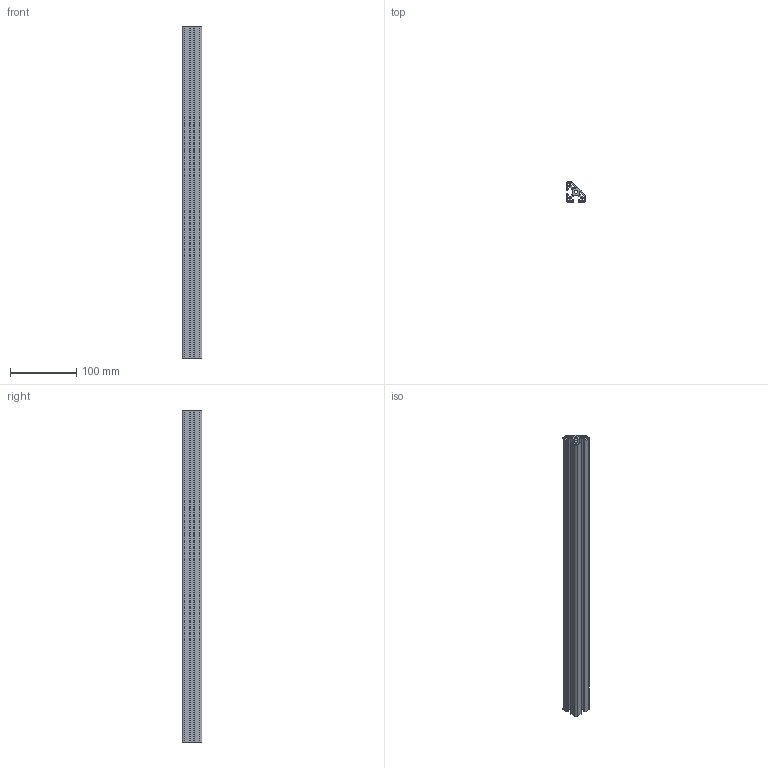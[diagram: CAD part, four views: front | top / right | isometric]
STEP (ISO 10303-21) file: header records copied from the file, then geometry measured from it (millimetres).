
FILE_DESCRIPTION (( 'STEP AP203' ), '1' );
FILE_NAME ('PP3150-500-Rollco.step', '2026-05-04T07:41:07', ( '' ), ( '' ), 'SwSTEP 2.0', 'SolidWorks 2014', '' );
FILE_SCHEMA (( 'CONFIG_CONTROL_DESIGN' ));
Length unit declared in the file: millimetre
Products named in the file (1): PP3150-500-Rollco
Bounding box: 30 x 30 x 500 mm (x, y, z)
Volume: 157147.8 mm3; surface area: 143973.4 mm2
Topology: 1 solids, 1 shells, 112 faces, 330 edges, 220 vertices
Faces by surface type: cylinder 57, plane 55
Entity records: 3869 total; most frequent: DIRECTION 670, CARTESIAN_POINT 663, ORIENTED_EDGE 660, EDGE_CURVE 330, AXIS2_PLACEMENT_3D 227, VERTEX_POINT 220, VECTOR 216, LINE 216
